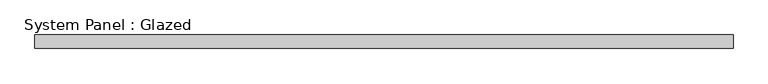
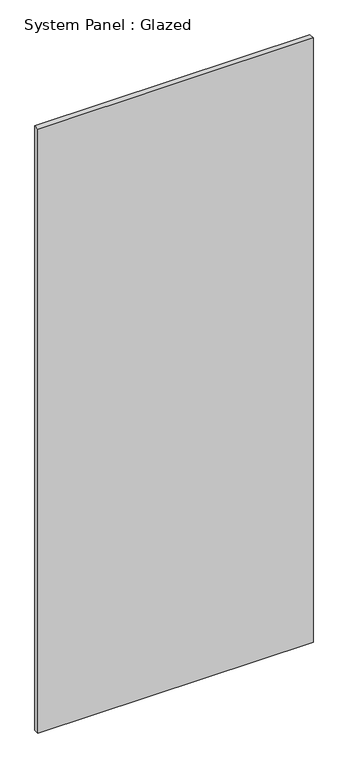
"""IFC4 building model written with IfcOpenShell, lengths in millimetres: plate geometry, System Panel : Glazed."""

from ifc_helpers import new_model, si_unit, origin, origin_with_axes, place, context, project, spatial, polyline, outline, extrude, source, transform, mapped, element, save


def system_panel_glazed_33b4a288(model_context):
    return source(origin(), model_context, "Body", "SweptSolid", [
        extrude(outline(polyline([(656.4135118, -44.45), (-656.4135118, -44.45), (-656.4135118, -19.05), (656.4135118, -19.05), (656.4135118, -44.45)])), origin_with_axes(), (0.0, 0.0, 1.0), 3048.0),
    ])


if __name__ == "__main__":
    model = new_model("IFC4")
    model_context = context("Model", 3, world=origin())
    ifc_project = project(units=[si_unit("LENGTHUNIT", "METRE", prefix="MILLI")], contexts=[model_context])
    site = spatial("IfcSite", under=ifc_project)
    building = spatial("IfcBuilding", under=site)
    placement = place(None, origin())
    system_panel_glazed_shape = system_panel_glazed_33b4a288(model_context)
    element("IfcPlate", 1, ObjectType="System Panel : Glazed", at=placement, inside=building, context=model_context, shape_type="MappedRepresentation", body=[
        mapped(system_panel_glazed_shape, transform((0.0, 0.0, 0.0), x_axis=(1.0, 0.0, 0.0), y_axis=(0.0, 1.0, 0.0), z_axis=(0.0, 0.0, 1.0))),
    ])
    save(model, "model.ifc")
